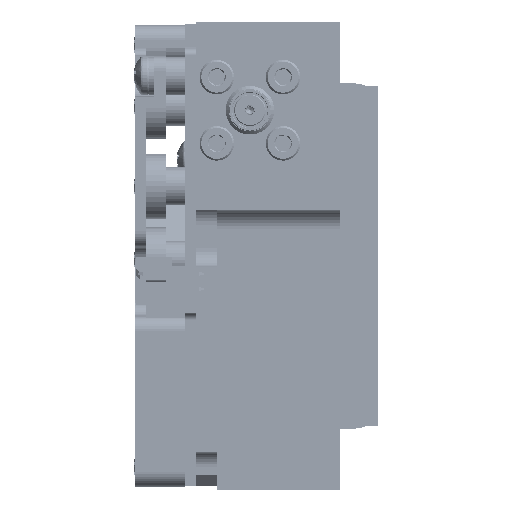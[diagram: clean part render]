
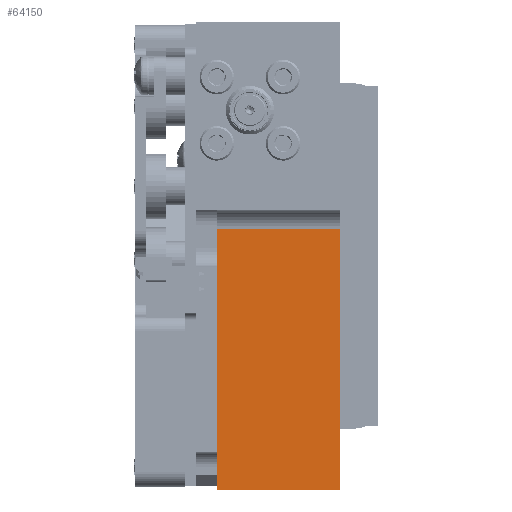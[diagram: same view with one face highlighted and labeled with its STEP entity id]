
A CAD part, left-side view. The second image highlights one B-rep face of the part: STEP entity #64150.
In plain terms, the highlighted planar face has unit normal (-1, 0, 0).
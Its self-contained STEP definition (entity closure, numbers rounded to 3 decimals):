
#1938 = LINE ( 'NONE', #37721, #19107 ) ;
#7632 = EDGE_LOOP ( 'NONE', ( #30540, #38701, #38456, #9338 ) ) ;
#9338 = ORIENTED_EDGE ( 'NONE', *, *, #43192, .F. ) ;
#9501 = AXIS2_PLACEMENT_3D ( 'NONE', #40187, #32542, #14909 ) ;
#14909 = DIRECTION ( 'NONE',  ( 0., 0., -1. ) ) ;
#18625 = DIRECTION ( 'NONE',  ( 0., 0., 1. ) ) ;
#19107 = VECTOR ( 'NONE', #73406, 1000. ) ;
#20016 = CARTESIAN_POINT ( 'NONE',  ( -36.5, 16., -30.5 ) ) ;
#26291 = VERTEX_POINT ( 'NONE', #20016 ) ;
#30540 = ORIENTED_EDGE ( 'NONE', *, *, #71339, .F. ) ;
#32542 = DIRECTION ( 'NONE',  ( 1., 0., 0. ) ) ;
#37721 = CARTESIAN_POINT ( 'NONE',  ( -36.5, -13.5, 3.5 ) ) ;
#38456 = ORIENTED_EDGE ( 'NONE', *, *, #108737, .T. ) ;
#38701 = ORIENTED_EDGE ( 'NONE', *, *, #47666, .F. ) ;
#38949 = VERTEX_POINT ( 'NONE', #79349 ) ;
#40187 = CARTESIAN_POINT ( 'NONE',  ( -36.5, -13.5, 6. ) ) ;
#42278 = DIRECTION ( 'NONE',  ( 0., -1., 0. ) ) ;
#43192 = EDGE_CURVE ( 'NONE', #38949, #84268, #47118, .T. ) ;
#47118 = LINE ( 'NONE', #82214, #62597 ) ;
#47666 = EDGE_CURVE ( 'NONE', #26291, #99375, #73064, .T. ) ;
#49340 = LINE ( 'NONE', #84407, #114463 ) ;
#51878 = PLANE ( 'NONE',  #9501 ) ;
#59514 = CARTESIAN_POINT ( 'NONE',  ( -36.5, 16., 3.5 ) ) ;
#62597 = VECTOR ( 'NONE', #82792, 1000. ) ;
#64150 = ADVANCED_FACE ( 'NONE', ( #102730 ), #51878, .F. ) ;
#64330 = CARTESIAN_POINT ( 'NONE',  ( -36.5, 16., 0. ) ) ;
#71339 = EDGE_CURVE ( 'NONE', #99375, #38949, #1938, .T. ) ;
#73064 = LINE ( 'NONE', #64330, #94488 ) ;
#73406 = DIRECTION ( 'NONE',  ( 0., -1., 0. ) ) ;
#79349 = CARTESIAN_POINT ( 'NONE',  ( -36.5, 0., 3.5 ) ) ;
#82214 = CARTESIAN_POINT ( 'NONE',  ( -36.5, 0., 0. ) ) ;
#82792 = DIRECTION ( 'NONE',  ( 0., 0., -1. ) ) ;
#84268 = VERTEX_POINT ( 'NONE', #110279 ) ;
#84407 = CARTESIAN_POINT ( 'NONE',  ( -36.5, -13.5, -30.5 ) ) ;
#94488 = VECTOR ( 'NONE', #18625, 1000. ) ;
#99375 = VERTEX_POINT ( 'NONE', #59514 ) ;
#102730 = FACE_OUTER_BOUND ( 'NONE', #7632, .T. ) ;
#108737 = EDGE_CURVE ( 'NONE', #26291, #84268, #49340, .T. ) ;
#110279 = CARTESIAN_POINT ( 'NONE',  ( -36.5, 0., -30.5 ) ) ;
#114463 = VECTOR ( 'NONE', #42278, 1000. ) ;
